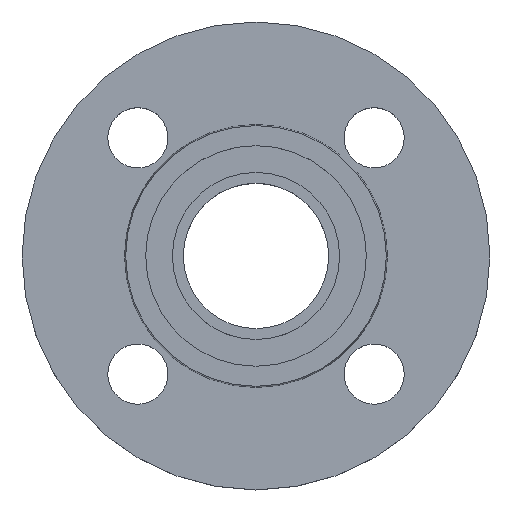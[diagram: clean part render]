
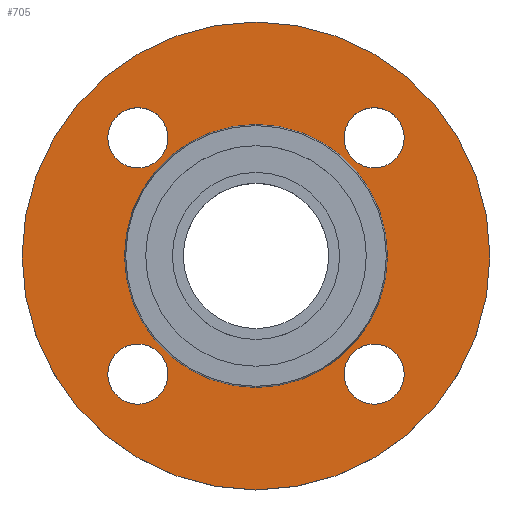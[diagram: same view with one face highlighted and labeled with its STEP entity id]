
A CAD part, top view. The second image highlights one B-rep face of the part: STEP entity #705.
In plain terms, the highlighted planar face has unit normal (0, 0, 1).
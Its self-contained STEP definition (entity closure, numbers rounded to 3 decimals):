
#2 = VERTEX_POINT ( 'NONE', #468 ) ;
#12 = VERTEX_POINT ( 'NONE', #729 ) ;
#13 = EDGE_CURVE ( 'NONE', #12, #681, #541, .T. ) ;
#22 = PLANE ( 'NONE',  #470 ) ;
#24 = DIRECTION ( 'NONE',  ( 1., 0., 0. ) ) ;
#27 = CIRCLE ( 'NONE', #43, 9. ) ;
#29 = AXIS2_PLACEMENT_3D ( 'NONE', #817, #221, #504 ) ;
#33 = ORIENTED_EDGE ( 'NONE', *, *, #479, .T. ) ;
#35 = DIRECTION ( 'NONE',  ( 0., 0., -1. ) ) ;
#41 = DIRECTION ( 'NONE',  ( 0., 0., -1. ) ) ;
#43 = AXIS2_PLACEMENT_3D ( 'NONE', #674, #41, #334 ) ;
#44 = AXIS2_PLACEMENT_3D ( 'NONE', #872, #286, #564 ) ;
#48 = EDGE_CURVE ( 'NONE', #665, #830, #27, .T. ) ;
#56 = CIRCLE ( 'NONE', #223, 39.353 ) ;
#62 = DIRECTION ( 'NONE',  ( 1., 0., 0. ) ) ;
#63 = EDGE_CURVE ( 'NONE', #620, #375, #70, .T. ) ;
#70 = CIRCLE ( 'NONE', #85, 9. ) ;
#85 = AXIS2_PLACEMENT_3D ( 'NONE', #548, #795, #191 ) ;
#97 = VERTEX_POINT ( 'NONE', #571 ) ;
#98 = FACE_BOUND ( 'NONE', #485, .T. ) ;
#104 = CARTESIAN_POINT ( 'NONE',  ( 0., 0., -2. ) ) ;
#113 = CARTESIAN_POINT ( 'NONE',  ( -35.355, -35.355, -2. ) ) ;
#125 = EDGE_LOOP ( 'NONE', ( #835, #527 ) ) ;
#126 = EDGE_LOOP ( 'NONE', ( #33, #487 ) ) ;
#127 = EDGE_CURVE ( 'NONE', #2, #614, #56, .T. ) ;
#140 = DIRECTION ( 'NONE',  ( 0., 0., -1. ) ) ;
#166 = ORIENTED_EDGE ( 'NONE', *, *, #427, .T. ) ;
#168 = FACE_BOUND ( 'NONE', #196, .T. ) ;
#191 = DIRECTION ( 'NONE',  ( 1., 0., 0. ) ) ;
#192 = ORIENTED_EDGE ( 'NONE', *, *, #127, .T. ) ;
#196 = EDGE_LOOP ( 'NONE', ( #626, #597 ) ) ;
#199 = CIRCLE ( 'NONE', #696, 70. ) ;
#202 = EDGE_CURVE ( 'NONE', #830, #665, #369, .T. ) ;
#218 = DIRECTION ( 'NONE',  ( 0., 0., -1. ) ) ;
#220 = CARTESIAN_POINT ( 'NONE',  ( 26.355, 35.355, -2. ) ) ;
#221 = DIRECTION ( 'NONE',  ( 0., 0., -1. ) ) ;
#223 = AXIS2_PLACEMENT_3D ( 'NONE', #224, #507, #757 ) ;
#224 = CARTESIAN_POINT ( 'NONE',  ( 0., 0., -2. ) ) ;
#236 = ORIENTED_EDGE ( 'NONE', *, *, #202, .T. ) ;
#253 = VERTEX_POINT ( 'NONE', #515 ) ;
#280 = DIRECTION ( 'NONE',  ( 0., 0., -1. ) ) ;
#281 = EDGE_LOOP ( 'NONE', ( #166, #192 ) ) ;
#286 = DIRECTION ( 'NONE',  ( 0., 0., -1. ) ) ;
#289 = AXIS2_PLACEMENT_3D ( 'NONE', #750, #140, #62 ) ;
#295 = AXIS2_PLACEMENT_3D ( 'NONE', #104, #391, #663 ) ;
#318 = CARTESIAN_POINT ( 'NONE',  ( 39.353, 0., -2. ) ) ;
#328 = DIRECTION ( 'NONE',  ( 1., 0., 0. ) ) ;
#334 = DIRECTION ( 'NONE',  ( 1., 0., 0. ) ) ;
#341 = EDGE_CURVE ( 'NONE', #393, #97, #618, .T. ) ;
#347 = EDGE_LOOP ( 'NONE', ( #643, #537 ) ) ;
#369 = CIRCLE ( 'NONE', #371, 9. ) ;
#371 = AXIS2_PLACEMENT_3D ( 'NONE', #387, #658, #24 ) ;
#375 = VERTEX_POINT ( 'NONE', #397 ) ;
#378 = EDGE_CURVE ( 'NONE', #623, #253, #403, .T. ) ;
#385 = FACE_BOUND ( 'NONE', #281, .T. ) ;
#387 = CARTESIAN_POINT ( 'NONE',  ( 35.355, 35.355, -2. ) ) ;
#391 = DIRECTION ( 'NONE',  ( 0., 0., -1. ) ) ;
#393 = VERTEX_POINT ( 'NONE', #402 ) ;
#397 = CARTESIAN_POINT ( 'NONE',  ( 44.355, -35.355, -2. ) ) ;
#399 = DIRECTION ( 'NONE',  ( 0., 0., -1. ) ) ;
#402 = CARTESIAN_POINT ( 'NONE',  ( -70., 0., -2. ) ) ;
#403 = CIRCLE ( 'NONE', #762, 9. ) ;
#427 = EDGE_CURVE ( 'NONE', #614, #2, #544, .T. ) ;
#431 = CARTESIAN_POINT ( 'NONE',  ( 26.355, -35.355, -2. ) ) ;
#433 = CIRCLE ( 'NONE', #29, 9. ) ;
#448 = CIRCLE ( 'NONE', #44, 9. ) ;
#453 = FACE_BOUND ( 'NONE', #126, .T. ) ;
#468 = CARTESIAN_POINT ( 'NONE',  ( 39.353, 0., -2. ) ) ;
#470 = AXIS2_PLACEMENT_3D ( 'NONE', #318, #593, #838 ) ;
#479 = EDGE_CURVE ( 'NONE', #681, #12, #448, .T. ) ;
#482 = ORIENTED_EDGE ( 'NONE', *, *, #48, .T. ) ;
#485 = EDGE_LOOP ( 'NONE', ( #482, #236 ) ) ;
#487 = ORIENTED_EDGE ( 'NONE', *, *, #13, .T. ) ;
#500 = DIRECTION ( 'NONE',  ( -1., 0., 0. ) ) ;
#504 = DIRECTION ( 'NONE',  ( 1., 0., 0. ) ) ;
#507 = DIRECTION ( 'NONE',  ( 0., 0., -1. ) ) ;
#512 = EDGE_CURVE ( 'NONE', #375, #620, #678, .T. ) ;
#514 = CARTESIAN_POINT ( 'NONE',  ( -26.355, -35.355, -2. ) ) ;
#515 = CARTESIAN_POINT ( 'NONE',  ( -26.355, 35.355, -2. ) ) ;
#527 = ORIENTED_EDGE ( 'NONE', *, *, #378, .T. ) ;
#537 = ORIENTED_EDGE ( 'NONE', *, *, #341, .F. ) ;
#539 = AXIS2_PLACEMENT_3D ( 'NONE', #113, #399, #670 ) ;
#541 = CIRCLE ( 'NONE', #539, 9. ) ;
#544 = CIRCLE ( 'NONE', #645, 39.353 ) ;
#548 = CARTESIAN_POINT ( 'NONE',  ( 35.355, -35.355, -2. ) ) ;
#559 = DIRECTION ( 'NONE',  ( -1., 0., 0. ) ) ;
#564 = DIRECTION ( 'NONE',  ( 1., 0., 0. ) ) ;
#571 = CARTESIAN_POINT ( 'NONE',  ( 70., 0., -2. ) ) ;
#593 = DIRECTION ( 'NONE',  ( 0., 0., 1. ) ) ;
#597 = ORIENTED_EDGE ( 'NONE', *, *, #63, .T. ) ;
#613 = EDGE_CURVE ( 'NONE', #97, #393, #199, .T. ) ;
#614 = VERTEX_POINT ( 'NONE', #753 ) ;
#618 = CIRCLE ( 'NONE', #295, 70. ) ;
#620 = VERTEX_POINT ( 'NONE', #431 ) ;
#623 = VERTEX_POINT ( 'NONE', #636 ) ;
#626 = ORIENTED_EDGE ( 'NONE', *, *, #512, .T. ) ;
#635 = EDGE_CURVE ( 'NONE', #253, #623, #433, .T. ) ;
#636 = CARTESIAN_POINT ( 'NONE',  ( -44.355, 35.355, -2. ) ) ;
#643 = ORIENTED_EDGE ( 'NONE', *, *, #613, .F. ) ;
#645 = AXIS2_PLACEMENT_3D ( 'NONE', #867, #280, #559 ) ;
#656 = FACE_OUTER_BOUND ( 'NONE', #347, .T. ) ;
#658 = DIRECTION ( 'NONE',  ( 0., 0., -1. ) ) ;
#663 = DIRECTION ( 'NONE',  ( -1., 0., 0. ) ) ;
#665 = VERTEX_POINT ( 'NONE', #761 ) ;
#668 = CARTESIAN_POINT ( 'NONE',  ( -35.355, 35.355, -2. ) ) ;
#670 = DIRECTION ( 'NONE',  ( 1., 0., 0. ) ) ;
#674 = CARTESIAN_POINT ( 'NONE',  ( 35.355, 35.355, -2. ) ) ;
#678 = CIRCLE ( 'NONE', #289, 9. ) ;
#681 = VERTEX_POINT ( 'NONE', #514 ) ;
#696 = AXIS2_PLACEMENT_3D ( 'NONE', #813, #218, #500 ) ;
#705 = ADVANCED_FACE ( 'NONE', ( #168, #453, #717, #98, #385, #656 ), #22, .T. ) ;
#717 = FACE_BOUND ( 'NONE', #125, .T. ) ;
#729 = CARTESIAN_POINT ( 'NONE',  ( -44.355, -35.355, -2. ) ) ;
#750 = CARTESIAN_POINT ( 'NONE',  ( 35.355, -35.355, -2. ) ) ;
#753 = CARTESIAN_POINT ( 'NONE',  ( -39.353, 0., -2. ) ) ;
#757 = DIRECTION ( 'NONE',  ( -1., 0., 0. ) ) ;
#761 = CARTESIAN_POINT ( 'NONE',  ( 44.355, 35.355, -2. ) ) ;
#762 = AXIS2_PLACEMENT_3D ( 'NONE', #668, #35, #328 ) ;
#795 = DIRECTION ( 'NONE',  ( 0., 0., -1. ) ) ;
#813 = CARTESIAN_POINT ( 'NONE',  ( 0., 0., -2. ) ) ;
#817 = CARTESIAN_POINT ( 'NONE',  ( -35.355, 35.355, -2. ) ) ;
#830 = VERTEX_POINT ( 'NONE', #220 ) ;
#835 = ORIENTED_EDGE ( 'NONE', *, *, #635, .T. ) ;
#838 = DIRECTION ( 'NONE',  ( 1., 0., 0. ) ) ;
#867 = CARTESIAN_POINT ( 'NONE',  ( 0., 0., -2. ) ) ;
#872 = CARTESIAN_POINT ( 'NONE',  ( -35.355, -35.355, -2. ) ) ;
